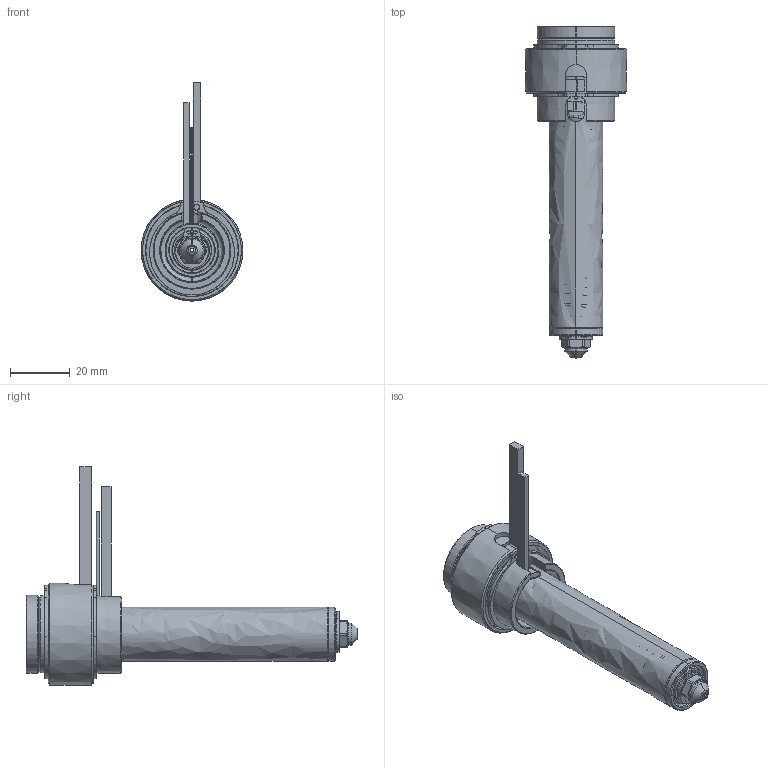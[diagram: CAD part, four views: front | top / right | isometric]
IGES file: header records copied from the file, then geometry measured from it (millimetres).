
Start section: SolidWorks IGES file using analytic representation for surfaces
Global section: file name: C:\Documents and Settings\ws-20\Desktop\TEM\UGER2503-S-A-0 [Øb-1.30 ØC-5.0].IGS; native system: SolidWorks 2012; preprocessor: SolidWorks 2012; author: ws-20; date: 120405.105252; units: millimetre
Bounding box: 34 x 110.9 x 72.9 mm (x, y, z)
Surface area: 28249.4 mm2 (no closed solid volume)
Topology: 0 solids, 0 shells, 201 faces, 2681 edges, 2681 vertices
Faces by surface type: revolution 128, bspline 73
